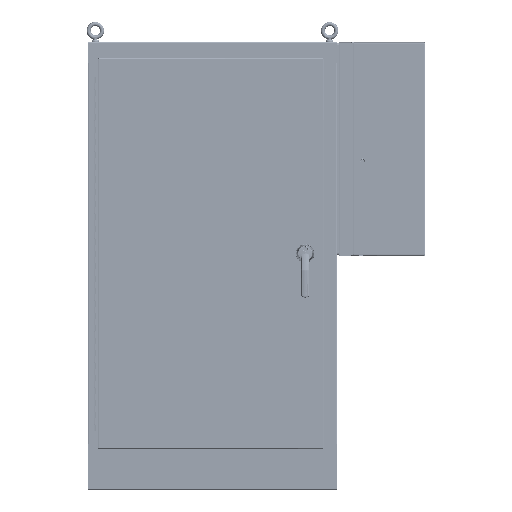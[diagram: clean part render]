
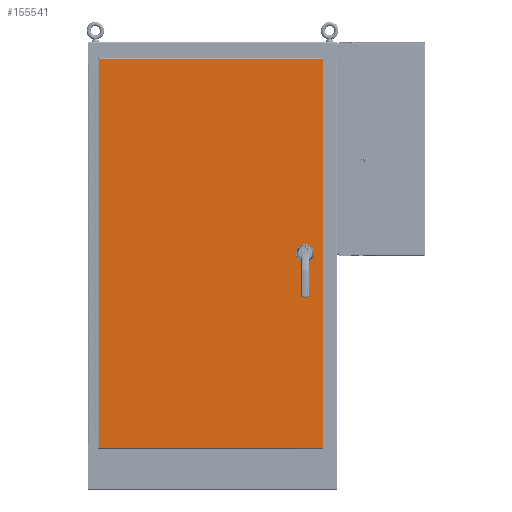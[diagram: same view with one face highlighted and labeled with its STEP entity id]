
A CAD part, top view. The second image highlights one B-rep face of the part: STEP entity #155541.
In plain terms, the highlighted planar face has unit normal (0, 0, 1) as drawn and (0, 0, -1) by its records, which use the part's own axes.
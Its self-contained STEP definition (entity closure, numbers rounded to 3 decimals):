
#22830 = PLANE ( 'NONE',  #238628 ) ;
#22833 = CARTESIAN_POINT ( 'NONE',  ( -18.222, -31.472, -0.095 ) ) ;
#22834 = DIRECTION ( 'NONE',  ( 0., 0., 1. ) ) ;
#22835 = DIRECTION ( 'NONE',  ( 1., 0., 0. ) ) ;
#49418 = VERTEX_POINT ( 'NONE', #76962 ) ;
#49422 = VERTEX_POINT ( 'NONE', #76983 ) ;
#49425 = VERTEX_POINT ( 'NONE', #77016 ) ;
#49428 = VERTEX_POINT ( 'NONE', #77019 ) ;
#49430 = VERTEX_POINT ( 'NONE', #77023 ) ;
#49434 = VERTEX_POINT ( 'NONE', #77027 ) ;
#49444 = VERTEX_POINT ( 'NONE', #77040 ) ;
#49448 = VERTEX_POINT ( 'NONE', #77044 ) ;
#49459 = VERTEX_POINT ( 'NONE', #77011 ) ;
#49463 = VERTEX_POINT ( 'NONE', #77032 ) ;
#76962 = CARTESIAN_POINT ( 'NONE',  ( 18.017, 31.267, -0.095 ) ) ;
#76983 = CARTESIAN_POINT ( 'NONE',  ( -18.017, 31.267, -0.095 ) ) ;
#77011 = CARTESIAN_POINT ( 'NONE',  ( -16.269, 0., -0.095 ) ) ;
#77016 = CARTESIAN_POINT ( 'NONE',  ( -18.017, -31.267, -0.095 ) ) ;
#77019 = CARTESIAN_POINT ( 'NONE',  ( 18.017, -31.267, -0.095 ) ) ;
#77023 = CARTESIAN_POINT ( 'NONE',  ( -15.503, 0., -0.095 ) ) ;
#77027 = CARTESIAN_POINT ( 'NONE',  ( -14.941, 0., -0.095 ) ) ;
#77032 = CARTESIAN_POINT ( 'NONE',  ( -15.988, 0., -0.095 ) ) ;
#77040 = CARTESIAN_POINT ( 'NONE',  ( -14.457, 0., -0.095 ) ) ;
#77044 = CARTESIAN_POINT ( 'NONE',  ( -14.176, 0., -0.095 ) ) ;
#101902 = EDGE_CURVE ( 'NONE', #49463, #49459, #296634, .T. ) ;
#101933 = EDGE_CURVE ( 'NONE', #49448, #49444, #296668, .T. ) ;
#101937 = EDGE_CURVE ( 'NONE', #49434, #49430, #296673, .T. ) ;
#101952 = EDGE_CURVE ( 'NONE', #49428, #49425, #296665, .T. ) ;
#101955 = EDGE_CURVE ( 'NONE', #49418, #49428, #296678, .T. ) ;
#101968 = EDGE_CURVE ( 'NONE', #49425, #49422, #296693, .T. ) ;
#101972 = EDGE_CURVE ( 'NONE', #49430, #49434, #296718, .T. ) ;
#101976 = EDGE_CURVE ( 'NONE', #49459, #49463, #296723, .T. ) ;
#101978 = EDGE_CURVE ( 'NONE', #49444, #49448, #296728, .T. ) ;
#101982 = EDGE_CURVE ( 'NONE', #49422, #49418, #296714, .T. ) ;
#155541 = ADVANCED_FACE ( 'NONE', ( #336592, #336599, #336601, #336603 ), #22830, .F. ) ;
#179071 = EDGE_LOOP ( 'NONE', ( #188380, #188382, #188384, #188386 ) ) ;
#179073 = EDGE_LOOP ( 'NONE', ( #188375, #188377 ) ) ;
#179078 = EDGE_LOOP ( 'NONE', ( #188371, #188373 ) ) ;
#179094 = EDGE_LOOP ( 'NONE', ( #188366, #188369 ) ) ;
#188366 = ORIENTED_EDGE ( 'NONE', *, *, #101976, .F. ) ;
#188369 = ORIENTED_EDGE ( 'NONE', *, *, #101902, .F. ) ;
#188371 = ORIENTED_EDGE ( 'NONE', *, *, #101978, .F. ) ;
#188373 = ORIENTED_EDGE ( 'NONE', *, *, #101933, .F. ) ;
#188375 = ORIENTED_EDGE ( 'NONE', *, *, #101972, .F. ) ;
#188377 = ORIENTED_EDGE ( 'NONE', *, *, #101937, .F. ) ;
#188380 = ORIENTED_EDGE ( 'NONE', *, *, #101952, .T. ) ;
#188382 = ORIENTED_EDGE ( 'NONE', *, *, #101968, .T. ) ;
#188384 = ORIENTED_EDGE ( 'NONE', *, *, #101982, .T. ) ;
#188386 = ORIENTED_EDGE ( 'NONE', *, *, #101955, .T. ) ;
#238628 = AXIS2_PLACEMENT_3D ( 'NONE', #22833, #22834, #22835 ) ;
#276031 = AXIS2_PLACEMENT_3D ( 'NONE', #291088, #291089, #291090 ) ;
#276044 = AXIS2_PLACEMENT_3D ( 'NONE', #291114, #291115, #291116 ) ;
#276053 = AXIS2_PLACEMENT_3D ( 'NONE', #291111, #291112, #291113 ) ;
#276055 = AXIS2_PLACEMENT_3D ( 'NONE', #291133, #291141, #291142 ) ;
#276057 = AXIS2_PLACEMENT_3D ( 'NONE', #291135, #291138, #291139 ) ;
#276066 = AXIS2_PLACEMENT_3D ( 'NONE', #291137, #291143, #291144 ) ;
#291088 = CARTESIAN_POINT ( 'NONE',  ( -16.128, 0., -0.095 ) ) ;
#291089 = DIRECTION ( 'NONE',  ( 0., 0., -1. ) ) ;
#291090 = DIRECTION ( 'NONE',  ( -1., 0., 0. ) ) ;
#291111 = CARTESIAN_POINT ( 'NONE',  ( -14.316, 0., -0.095 ) ) ;
#291112 = DIRECTION ( 'NONE',  ( 0., 0., -1. ) ) ;
#291113 = DIRECTION ( 'NONE',  ( -1., 0., 0. ) ) ;
#291114 = CARTESIAN_POINT ( 'NONE',  ( -15.222, 0., -0.095 ) ) ;
#291115 = DIRECTION ( 'NONE',  ( 0., 0., -1. ) ) ;
#291116 = DIRECTION ( 'NONE',  ( -1., 0., 0. ) ) ;
#291121 = CARTESIAN_POINT ( 'NONE',  ( 18.109, -31.267, -0.095 ) ) ;
#291123 = CARTESIAN_POINT ( 'NONE',  ( 18.017, 31.36, -0.095 ) ) ;
#291125 = DIRECTION ( 'NONE',  ( -1., 0., 0. ) ) ;
#291127 = DIRECTION ( 'NONE',  ( 0., -1., 0. ) ) ;
#291132 = CARTESIAN_POINT ( 'NONE',  ( -18.017, -31.36, -0.095 ) ) ;
#291133 = CARTESIAN_POINT ( 'NONE',  ( -16.128, 0., -0.095 ) ) ;
#291135 = CARTESIAN_POINT ( 'NONE',  ( -15.222, 0., -0.095 ) ) ;
#291136 = DIRECTION ( 'NONE',  ( 0., 1., 0. ) ) ;
#291137 = CARTESIAN_POINT ( 'NONE',  ( -14.316, 0., -0.095 ) ) ;
#291138 = DIRECTION ( 'NONE',  ( 0., 0., -1. ) ) ;
#291139 = DIRECTION ( 'NONE',  ( -1., 0., 0. ) ) ;
#291141 = DIRECTION ( 'NONE',  ( 0., 0., -1. ) ) ;
#291142 = DIRECTION ( 'NONE',  ( -1., 0., 0. ) ) ;
#291143 = DIRECTION ( 'NONE',  ( 0., 0., -1. ) ) ;
#291144 = DIRECTION ( 'NONE',  ( -1., 0., 0. ) ) ;
#291145 = CARTESIAN_POINT ( 'NONE',  ( -18.109, 31.267, -0.095 ) ) ;
#291146 = DIRECTION ( 'NONE',  ( 1., 0., 0. ) ) ;
#296634 = CIRCLE ( 'NONE', #276031, 0.14 ) ;
#296665 = LINE ( 'NONE', #291121, #296685 ) ;
#296668 = CIRCLE ( 'NONE', #276053, 0.141 ) ;
#296673 = CIRCLE ( 'NONE', #276044, 0.281 ) ;
#296678 = LINE ( 'NONE', #291123, #296690 ) ;
#296685 = VECTOR ( 'NONE', #291125, 39.37 ) ;
#296690 = VECTOR ( 'NONE', #291127, 39.37 ) ;
#296693 = LINE ( 'NONE', #291132, #296708 ) ;
#296708 = VECTOR ( 'NONE', #291136, 39.37 ) ;
#296714 = LINE ( 'NONE', #291145, #296721 ) ;
#296718 = CIRCLE ( 'NONE', #276057, 0.281 ) ;
#296721 = VECTOR ( 'NONE', #291146, 39.37 ) ;
#296723 = CIRCLE ( 'NONE', #276055, 0.14 ) ;
#296728 = CIRCLE ( 'NONE', #276066, 0.141 ) ;
#336592 = FACE_BOUND ( 'NONE', #179094, .T. ) ;
#336599 = FACE_BOUND ( 'NONE', #179078, .T. ) ;
#336601 = FACE_BOUND ( 'NONE', #179073, .T. ) ;
#336603 = FACE_OUTER_BOUND ( 'NONE', #179071, .T. ) ;
